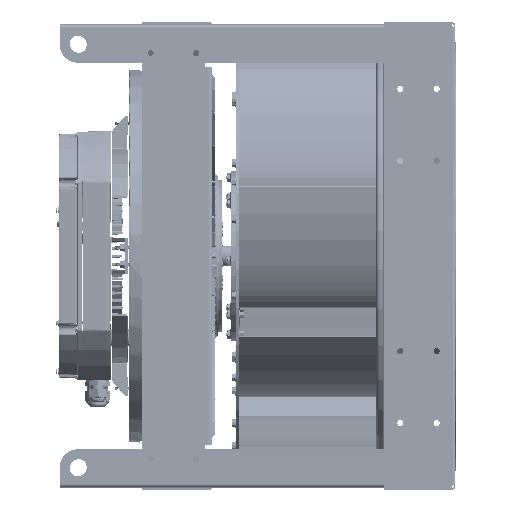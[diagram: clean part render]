
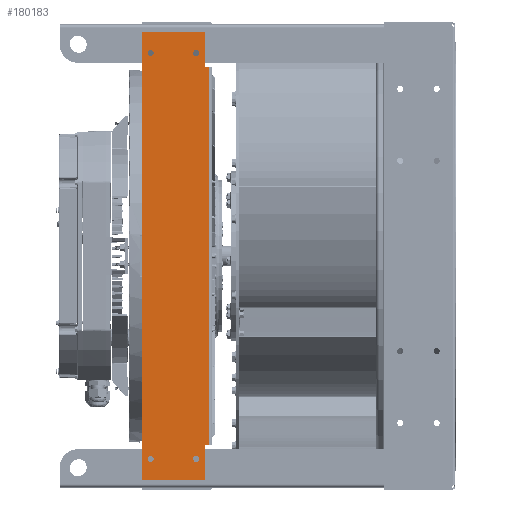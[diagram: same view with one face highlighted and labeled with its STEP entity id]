
A CAD part, left-side view. The second image highlights one B-rep face of the part: STEP entity #180183.
In plain terms, the highlighted planar face has unit normal (-1, 0, 0) as drawn and (0, 0, 1) by its records, which use the part's own axes.
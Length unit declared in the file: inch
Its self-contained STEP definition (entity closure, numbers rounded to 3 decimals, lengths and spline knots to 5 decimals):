
#2081 = EDGE_CURVE ( 'NONE', #119603, #37764, #199981, .T. ) ;
#5398 = CARTESIAN_POINT ( 'NONE',  ( -10.555, 1.77, 0.135 ) ) ;
#11300 = CARTESIAN_POINT ( 'NONE',  ( -12.465, 1.77, 0.135 ) ) ;
#11970 = CARTESIAN_POINT ( 'NONE',  ( 12.465, -1.77, 0.135 ) ) ;
#16846 = EDGE_LOOP ( 'NONE', ( #199552 ) ) ;
#18106 = EDGE_CURVE ( 'NONE', #97645, #97645, #257717, .T. ) ;
#20614 = AXIS2_PLACEMENT_3D ( 'NONE', #55297, #118901, #99462 ) ;
#20919 = EDGE_CURVE ( 'NONE', #233314, #36329, #111387, .T. ) ;
#23413 = CARTESIAN_POINT ( 'NONE',  ( -10.555, 1.9775, 0.135 ) ) ;
#24278 = LINE ( 'NONE', #217758, #152378 ) ;
#27200 = EDGE_LOOP ( 'NONE', ( #86222, #192249, #144512, #125075, #140989, #273428, #125648, #172720 ) ) ;
#28355 = DIRECTION ( 'NONE',  ( -1., 0., 0. ) ) ;
#28486 = CARTESIAN_POINT ( 'NONE',  ( 10.555, 1.9775, 0.135 ) ) ;
#28927 = VERTEX_POINT ( 'NONE', #5398 ) ;
#31521 = CARTESIAN_POINT ( 'NONE',  ( 10.555, 1.9775, 0.135 ) ) ;
#31677 = CARTESIAN_POINT ( 'NONE',  ( 10.555, 1.77, 0.135 ) ) ;
#32778 = VERTEX_POINT ( 'NONE', #238871 ) ;
#34114 = EDGE_CURVE ( 'NONE', #233314, #195570, #24278, .T. ) ;
#34473 = AXIS2_PLACEMENT_3D ( 'NONE', #242170, #54067, #137033 ) ;
#36329 = VERTEX_POINT ( 'NONE', #31677 ) ;
#37764 = VERTEX_POINT ( 'NONE', #200880 ) ;
#41468 = EDGE_CURVE ( 'NONE', #55868, #55868, #60866, .T. ) ;
#43190 = EDGE_CURVE ( 'NONE', #28927, #265356, #91555, .T. ) ;
#47408 = CARTESIAN_POINT ( 'NONE',  ( 11.305, 1.27, 0.135 ) ) ;
#50144 = VECTOR ( 'NONE', #92041, 39.37008 ) ;
#53290 = CARTESIAN_POINT ( 'NONE',  ( -12.465, 1.77, 0.135 ) ) ;
#53419 = DIRECTION ( 'NONE',  ( 0., 1., 0. ) ) ;
#54067 = DIRECTION ( 'NONE',  ( 0., 0., 1. ) ) ;
#54585 = AXIS2_PLACEMENT_3D ( 'NONE', #87846, #253823, #130698 ) ;
#55297 = CARTESIAN_POINT ( 'NONE',  ( 0., 0., 0.135 ) ) ;
#55868 = VERTEX_POINT ( 'NONE', #140228 ) ;
#60866 = CIRCLE ( 'NONE', #34473, 0.172 ) ;
#66970 = VECTOR ( 'NONE', #165554, 39.37008 ) ;
#68802 = CARTESIAN_POINT ( 'NONE',  ( 11.477, -1.27, 0.135 ) ) ;
#76926 = CARTESIAN_POINT ( 'NONE',  ( -11.477, -1.27, 0.135 ) ) ;
#79557 = AXIS2_PLACEMENT_3D ( 'NONE', #47408, #84771, #212006 ) ;
#80069 = EDGE_CURVE ( 'NONE', #195570, #28927, #233578, .T. ) ;
#84771 = DIRECTION ( 'NONE',  ( 0., 0., 1. ) ) ;
#86222 = ORIENTED_EDGE ( 'NONE', *, *, #222430, .T. ) ;
#86456 = EDGE_LOOP ( 'NONE', ( #164838 ) ) ;
#87846 = CARTESIAN_POINT ( 'NONE',  ( -11.305, -1.27, 0.135 ) ) ;
#89532 = VERTEX_POINT ( 'NONE', #68802 ) ;
#90250 = EDGE_CURVE ( 'NONE', #37764, #36329, #153770, .T. ) ;
#91079 = CIRCLE ( 'NONE', #201382, 0.172 ) ;
#91555 = LINE ( 'NONE', #192536, #96367 ) ;
#91684 = CARTESIAN_POINT ( 'NONE',  ( 12.465, -1.77, 0.135 ) ) ;
#92041 = DIRECTION ( 'NONE',  ( 0., -1., 0. ) ) ;
#96367 = VECTOR ( 'NONE', #213290, 39.37008 ) ;
#97645 = VERTEX_POINT ( 'NONE', #76926 ) ;
#99462 = DIRECTION ( 'NONE',  ( -1., 0., 0. ) ) ;
#100840 = FACE_OUTER_BOUND ( 'NONE', #27200, .T. ) ;
#106513 = CARTESIAN_POINT ( 'NONE',  ( 11.305, -1.27, 0.135 ) ) ;
#108286 = EDGE_LOOP ( 'NONE', ( #148574 ) ) ;
#111387 = LINE ( 'NONE', #28486, #50144 ) ;
#118901 = DIRECTION ( 'NONE',  ( 0., 0., -1. ) ) ;
#119603 = VERTEX_POINT ( 'NONE', #91684 ) ;
#123966 = DIRECTION ( 'NONE',  ( 1., 0., 0. ) ) ;
#125075 = ORIENTED_EDGE ( 'NONE', *, *, #90250, .T. ) ;
#125648 = ORIENTED_EDGE ( 'NONE', *, *, #80069, .T. ) ;
#128061 = CARTESIAN_POINT ( 'NONE',  ( -12.465, -1.77, 0.135 ) ) ;
#130698 = DIRECTION ( 'NONE',  ( -1., 0., 0. ) ) ;
#131930 = VERTEX_POINT ( 'NONE', #233549 ) ;
#137033 = DIRECTION ( 'NONE',  ( 1., 0., 0. ) ) ;
#138044 = EDGE_CURVE ( 'NONE', #131930, #119603, #166835, .T. ) ;
#138474 = VECTOR ( 'NONE', #123966, 39.37008 ) ;
#139564 = EDGE_LOOP ( 'NONE', ( #224350 ) ) ;
#140228 = CARTESIAN_POINT ( 'NONE',  ( -11.133, 1.27, 0.135 ) ) ;
#140989 = ORIENTED_EDGE ( 'NONE', *, *, #20919, .F. ) ;
#142357 = FACE_BOUND ( 'NONE', #108286, .T. ) ;
#144512 = ORIENTED_EDGE ( 'NONE', *, *, #2081, .T. ) ;
#148574 = ORIENTED_EDGE ( 'NONE', *, *, #165750, .F. ) ;
#149434 = DIRECTION ( 'NONE',  ( 1., 0., 0. ) ) ;
#152378 = VECTOR ( 'NONE', #28355, 39.37008 ) ;
#153770 = LINE ( 'NONE', #11300, #265658 ) ;
#156041 = EDGE_CURVE ( 'NONE', #89532, #89532, #91079, .T. ) ;
#160372 = FACE_BOUND ( 'NONE', #16846, .T. ) ;
#164838 = ORIENTED_EDGE ( 'NONE', *, *, #156041, .F. ) ;
#165554 = DIRECTION ( 'NONE',  ( 0., -1., 0. ) ) ;
#165750 = EDGE_CURVE ( 'NONE', #32778, #32778, #216393, .T. ) ;
#166835 = LINE ( 'NONE', #128061, #138474 ) ;
#171947 = VECTOR ( 'NONE', #251573, 39.37008 ) ;
#172720 = ORIENTED_EDGE ( 'NONE', *, *, #43190, .T. ) ;
#179874 = VECTOR ( 'NONE', #53419, 39.37008 ) ;
#180183 = ADVANCED_FACE ( 'NONE', ( #100840, #160372, #224006, #269586, #142357 ), #244727, .F. ) ;
#192249 = ORIENTED_EDGE ( 'NONE', *, *, #138044, .T. ) ;
#192536 = CARTESIAN_POINT ( 'NONE',  ( -12.465, 1.77, 0.135 ) ) ;
#195570 = VERTEX_POINT ( 'NONE', #23413 ) ;
#199314 = DIRECTION ( 'NONE',  ( -1., 0., 0. ) ) ;
#199552 = ORIENTED_EDGE ( 'NONE', *, *, #18106, .F. ) ;
#199981 = LINE ( 'NONE', #11970, #179874 ) ;
#200880 = CARTESIAN_POINT ( 'NONE',  ( 12.465, 1.77, 0.135 ) ) ;
#201382 = AXIS2_PLACEMENT_3D ( 'NONE', #106513, #215746, #149434 ) ;
#212006 = DIRECTION ( 'NONE',  ( -1., 0., 0. ) ) ;
#212807 = CARTESIAN_POINT ( 'NONE',  ( -10.555, 1.9775, 0.135 ) ) ;
#213290 = DIRECTION ( 'NONE',  ( -1., 0., 0. ) ) ;
#215746 = DIRECTION ( 'NONE',  ( 0., 0., 1. ) ) ;
#216393 = CIRCLE ( 'NONE', #79557, 0.172 ) ;
#217758 = CARTESIAN_POINT ( 'NONE',  ( 10.555, 1.9775, 0.135 ) ) ;
#222430 = EDGE_CURVE ( 'NONE', #265356, #131930, #229213, .T. ) ;
#224006 = FACE_BOUND ( 'NONE', #139564, .T. ) ;
#224350 = ORIENTED_EDGE ( 'NONE', *, *, #41468, .F. ) ;
#229213 = LINE ( 'NONE', #244468, #66970 ) ;
#233314 = VERTEX_POINT ( 'NONE', #31521 ) ;
#233549 = CARTESIAN_POINT ( 'NONE',  ( -12.465, -1.77, 0.135 ) ) ;
#233578 = LINE ( 'NONE', #212807, #171947 ) ;
#238871 = CARTESIAN_POINT ( 'NONE',  ( 11.133, 1.27, 0.135 ) ) ;
#242170 = CARTESIAN_POINT ( 'NONE',  ( -11.305, 1.27, 0.135 ) ) ;
#244468 = CARTESIAN_POINT ( 'NONE',  ( -12.465, -1.77, 0.135 ) ) ;
#244727 = PLANE ( 'NONE',  #20614 ) ;
#251573 = DIRECTION ( 'NONE',  ( 0., -1., 0. ) ) ;
#253823 = DIRECTION ( 'NONE',  ( 0., 0., 1. ) ) ;
#257717 = CIRCLE ( 'NONE', #54585, 0.172 ) ;
#265356 = VERTEX_POINT ( 'NONE', #53290 ) ;
#265658 = VECTOR ( 'NONE', #199314, 39.37008 ) ;
#269586 = FACE_BOUND ( 'NONE', #86456, .T. ) ;
#273428 = ORIENTED_EDGE ( 'NONE', *, *, #34114, .T. ) ;
